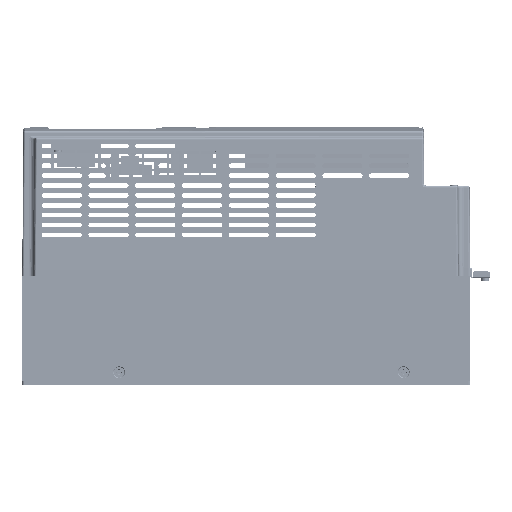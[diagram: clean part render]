
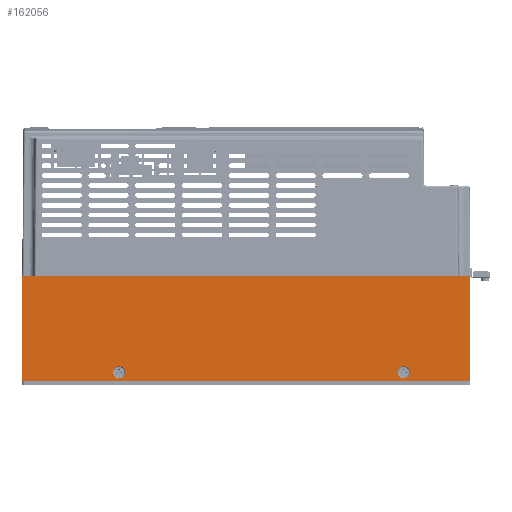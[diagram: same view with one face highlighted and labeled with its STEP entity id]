
A CAD part, left-side view. The second image highlights one B-rep face of the part: STEP entity #162056.
In plain terms, the highlighted planar face has unit normal (-1, 0, 0).
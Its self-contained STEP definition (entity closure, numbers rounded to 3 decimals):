
#115688=DIRECTION('',(0.,-1.,0.));
#115689=VECTOR('',#115688,79.5);
#115690=CARTESIAN_POINT('',(-91.3,83.,170.));
#115691=LINE('',#115690,#115689);
#115797=DIRECTION('',(0.,0.,-1.));
#115798=VECTOR('',#115797,340.);
#115799=CARTESIAN_POINT('',(-91.3,3.5,170.));
#115800=LINE('',#115799,#115798);
#115834=DIRECTION('',(0.,-1.,0.));
#115835=VECTOR('',#115834,79.5);
#115836=CARTESIAN_POINT('',(-91.3,83.,-170.));
#115837=LINE('',#115836,#115835);
#129018=DIRECTION('',(0.,0.,-1.));
#129019=VECTOR('',#129018,340.);
#129020=CARTESIAN_POINT('',(-91.3,83.,170.));
#129021=LINE('',#129020,#129019);
#129022=CARTESIAN_POINT('',(-91.3,10.,-96.5));
#129023=DIRECTION('',(1.,0.,0.));
#129024=DIRECTION('',(0.,0.,-1.));
#129025=AXIS2_PLACEMENT_3D('',#129022,#129023,#129024);
#129027=CARTESIAN_POINT('',(-91.3,10.,-96.5));
#129028=DIRECTION('',(1.,0.,0.));
#129029=DIRECTION('',(0.,0.,1.));
#129030=AXIS2_PLACEMENT_3D('',#129027,#129028,#129029);
#129032=CARTESIAN_POINT('',(-91.3,10.,119.5));
#129033=DIRECTION('',(1.,0.,0.));
#129034=DIRECTION('',(0.,0.,-1.));
#129035=AXIS2_PLACEMENT_3D('',#129032,#129033,#129034);
#129037=CARTESIAN_POINT('',(-91.3,10.,119.5));
#129038=DIRECTION('',(1.,0.,0.));
#129039=DIRECTION('',(0.,0.,1.));
#129040=AXIS2_PLACEMENT_3D('',#129037,#129038,#129039);
#131044=CARTESIAN_POINT('',(-91.3,83.,170.));
#131045=CARTESIAN_POINT('',(-91.3,3.5,170.));
#131046=VERTEX_POINT('',#131044);
#131047=VERTEX_POINT('',#131045);
#131062=CARTESIAN_POINT('',(-91.3,83.,-170.));
#131063=CARTESIAN_POINT('',(-91.3,3.5,-170.));
#131064=VERTEX_POINT('',#131062);
#131065=VERTEX_POINT('',#131063);
#137426=CARTESIAN_POINT('',(-91.3,10.,-101.));
#137427=CARTESIAN_POINT('',(-91.3,10.,-92.));
#137428=VERTEX_POINT('',#137426);
#137429=VERTEX_POINT('',#137427);
#137434=CARTESIAN_POINT('',(-91.3,10.,115.));
#137435=CARTESIAN_POINT('',(-91.3,10.,124.));
#137436=VERTEX_POINT('',#137434);
#137437=VERTEX_POINT('',#137435);
#162033=CARTESIAN_POINT('',(-91.3,83.,170.));
#162034=DIRECTION('',(-1.,0.,0.));
#162035=DIRECTION('',(0.,-1.,0.));
#162036=AXIS2_PLACEMENT_3D('',#162033,#162034,#162035);
#162037=PLANE('',#162036);
#162038=ORIENTED_EDGE('',*,*,#140411,.T.);
#162039=ORIENTED_EDGE('',*,*,#140532,.T.);
#162040=ORIENTED_EDGE('',*,*,#140584,.F.);
#162042=ORIENTED_EDGE('',*,*,#162041,.F.);
#162043=EDGE_LOOP('',(#162038,#162039,#162040,#162042));
#162044=FACE_OUTER_BOUND('',#162043,.F.);
#162045=ORIENTED_EDGE('',*,*,#162023,.F.);
#162047=ORIENTED_EDGE('',*,*,#162046,.F.);
#162048=EDGE_LOOP('',(#162045,#162047));
#162049=FACE_BOUND('',#162048,.F.);
#162051=ORIENTED_EDGE('',*,*,#162050,.F.);
#162053=ORIENTED_EDGE('',*,*,#162052,.F.);
#162054=EDGE_LOOP('',(#162051,#162053));
#162055=FACE_BOUND('',#162054,.F.);
#162056=ADVANCED_FACE('',(#162044,#162049,#162055),#162037,.T.);
#129026=CIRCLE('',#129025,4.5);
#129031=CIRCLE('',#129030,4.5);
#129036=CIRCLE('',#129035,4.5);
#129041=CIRCLE('',#129040,4.5);
#140411=EDGE_CURVE('',#131046,#131047,#115691,.T.);
#140532=EDGE_CURVE('',#131047,#131065,#115800,.T.);
#140584=EDGE_CURVE('',#131064,#131065,#115837,.T.);
#162023=EDGE_CURVE('',#137428,#137429,#129026,.T.);
#162041=EDGE_CURVE('',#131046,#131064,#129021,.T.);
#162046=EDGE_CURVE('',#137429,#137428,#129031,.T.);
#162050=EDGE_CURVE('',#137436,#137437,#129036,.T.);
#162052=EDGE_CURVE('',#137437,#137436,#129041,.T.);
